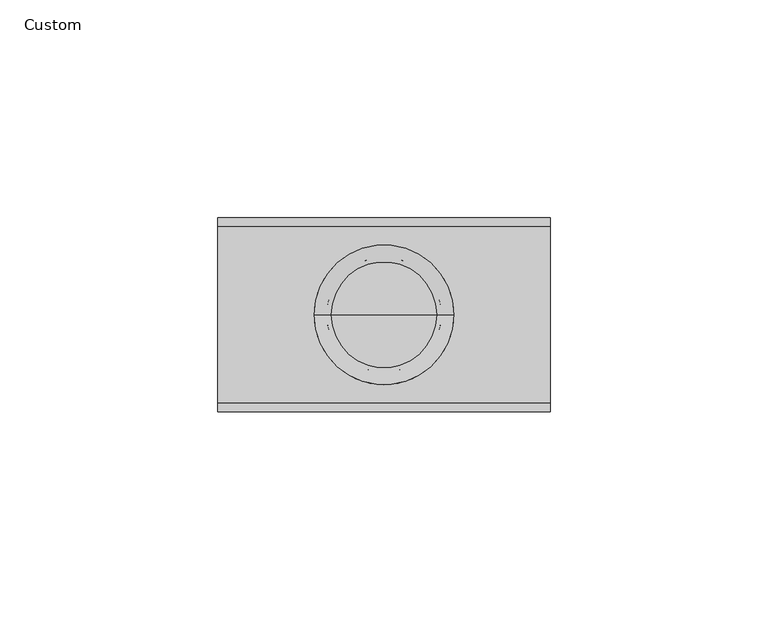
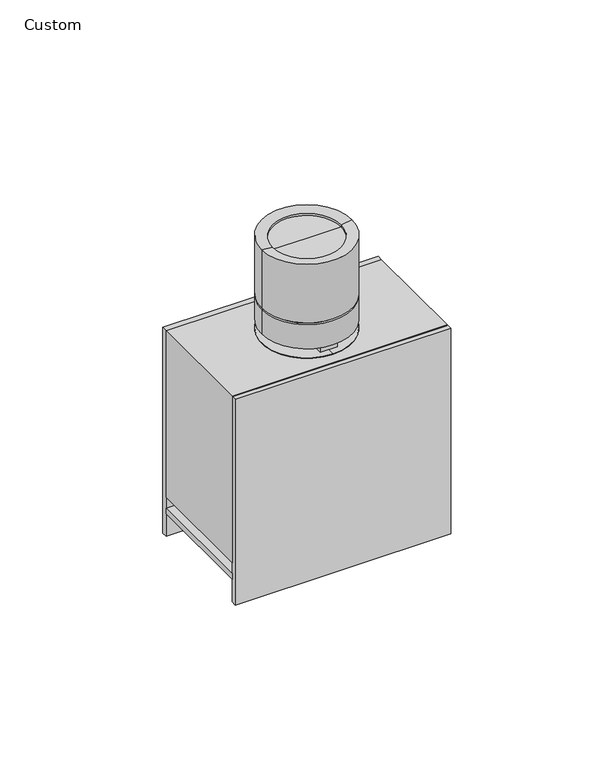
"""IFC4 building model written with IfcOpenShell, lengths in millimetres: light fixture geometry, Lighting-Pendant-Axis-Sculpt-Linear-Accent : Custom."""

from ifc_helpers import new_model, si_unit, point, frame, frame_2d, origin, place, context, project, spatial, polyline, circle_curve, ellipse_curve, trimmed, segment, composite_curve, outline, extrude, source, transform, mapped, element, save
from ifc_brep_helpers import plane_surface, cylinder_surface, revolved_surface, advanced_brep


def custom_6c2c77e1(model_context):
    return source(origin(), model_context, "Body", "SolidModel", [
        advanced_brep(
        [(-12.1749998, 0.0, 720.9971034), (12.1749998, 0.0, 720.9971034), (15.9999994, 0.0, 721.52002), (-15.9999994, 0.0, 721.52002), (-12.1749998, 0.0, 720.2033534), (12.1749998, 0.0, 720.2033534), (-14.0, 0.0, 720.2033534), (14.0, 0.0, 720.2033534), (-14.0, 0.0, 705.9033531), (14.0, 0.0, 705.9033531), (-12.4999997, 0.0, 705.9033531), (12.4999997, 0.0, 705.9033531), (-12.4999997, 0.0, 707.5033531), (12.4999997, 0.0, 707.5033531), (0.0, 0.0, 707.5033531), (-15.9999994, 0.0, 689.9033527), (15.9999994, 0.0, 689.9033527), (0.0, 0.0, 689.9033527), (-15.9999994, 0.0, 698.9033533), (15.9999994, 0.0, 698.9033533), (-15.2062494, 0.0, 698.9033533), (15.2062494, 0.0, 698.9033533), (-15.2062494, 0.0, 699.6971033), (15.2062494, 0.0, 699.6971033), (-15.9999994, 0.0, 699.6971033), (15.9999994, 0.0, 699.6971033)],
        [
            (0, 1, circle_curve(frame((0.0, 0.0, 720.9971034), z_axis=(0.0, 0.0, -1.0), x_axis=(1.0, 0.0, 0.0)), 12.1749998)),
            (1, 2),
            (2, 3, circle_curve(frame((0.0, 0.0, 721.52002), z_axis=(0.0, 0.0, 1.0), x_axis=(1.0, 0.0, 0.0)), 15.9999994)),
            (3, 0),
            (1, 0, circle_curve(frame((0.0, 0.0, 720.9971034), z_axis=(0.0, 0.0, -1.0), x_axis=(1.0, 0.0, 0.0)), 12.1749998)),
            (3, 2, circle_curve(frame((0.0, 0.0, 721.52002), z_axis=(0.0, 0.0, 1.0), x_axis=(1.0, 0.0, 0.0)), 15.9999994)),
            (4, 5, circle_curve(frame((0.0, 0.0, 720.2033534), z_axis=(0.0, 0.0, -1.0), x_axis=(1.0, 0.0, 0.0)), 12.1749998)),
            (5, 1),
            (0, 4),
            (5, 4, circle_curve(frame((0.0, 0.0, 720.2033534), z_axis=(0.0, 0.0, -1.0), x_axis=(1.0, 0.0, 0.0)), 12.1749998)),
            (6, 7, circle_curve(frame((0.0, 0.0, 720.2033534), z_axis=(0.0, 0.0, -1.0), x_axis=(1.0, 0.0, 0.0)), 14.0)),
            (7, 5),
            (4, 6),
            (7, 6, circle_curve(frame((0.0, 0.0, 720.2033534), z_axis=(0.0, 0.0, -1.0), x_axis=(1.0, 0.0, 0.0)), 14.0)),
            (8, 9, circle_curve(frame((0.0, 0.0, 705.9033531), z_axis=(0.0, 0.0, -1.0), x_axis=(1.0, 0.0, 0.0)), 14.0)),
            (9, 7),
            (6, 8),
            (9, 8, circle_curve(frame((0.0, 0.0, 705.9033531), z_axis=(0.0, 0.0, -1.0), x_axis=(1.0, 0.0, 0.0)), 14.0)),
            (10, 11, circle_curve(frame((0.0, 0.0, 705.9033531), z_axis=(0.0, 0.0, -1.0), x_axis=(1.0, 0.0, 0.0)), 12.4999997)),
            (11, 9),
            (8, 10),
            (11, 10, circle_curve(frame((0.0, 0.0, 705.9033531), z_axis=(0.0, 0.0, -1.0), x_axis=(1.0, 0.0, 0.0)), 12.4999997)),
            (12, 13, circle_curve(frame((0.0, 0.0, 707.5033531), z_axis=(0.0, 0.0, -1.0), x_axis=(1.0, 0.0, 0.0)), 12.4999997)),
            (13, 11),
            (10, 12),
            (13, 12, circle_curve(frame((0.0, 0.0, 707.5033531), z_axis=(0.0, 0.0, -1.0), x_axis=(1.0, 0.0, 0.0)), 12.4999997)),
            (14, 13),
            (12, 14),
            (15, 16, circle_curve(frame((0.0, 0.0, 689.9033527), z_axis=(0.0, 0.0, -1.0), x_axis=(1.0, 0.0, 0.0)), 15.9999994)),
            (16, 17),
            (17, 15),
            (16, 15, circle_curve(frame((0.0, 0.0, 689.9033527), z_axis=(0.0, 0.0, -1.0), x_axis=(1.0, 0.0, 0.0)), 15.9999994)),
            (18, 19, circle_curve(frame((0.0, 0.0, 698.9033533), z_axis=(0.0, 0.0, -1.0), x_axis=(1.0, 0.0, 0.0)), 15.9999994)),
            (19, 16),
            (15, 18),
            (19, 18, circle_curve(frame((0.0, 0.0, 698.9033533), z_axis=(0.0, 0.0, -1.0), x_axis=(1.0, 0.0, 0.0)), 15.9999994)),
            (20, 21, circle_curve(frame((0.0, 0.0, 698.9033533), z_axis=(0.0, 0.0, -1.0), x_axis=(1.0, 0.0, 0.0)), 15.2062494)),
            (21, 19),
            (18, 20),
            (21, 20, circle_curve(frame((0.0, 0.0, 698.9033533), z_axis=(0.0, 0.0, -1.0), x_axis=(1.0, 0.0, 0.0)), 15.2062494)),
            (22, 23, circle_curve(frame((0.0, 0.0, 699.6971033), z_axis=(0.0, 0.0, -1.0), x_axis=(1.0, 0.0, 0.0)), 15.2062494)),
            (23, 21),
            (20, 22),
            (23, 22, circle_curve(frame((0.0, 0.0, 699.6971033), z_axis=(0.0, 0.0, -1.0), x_axis=(1.0, 0.0, 0.0)), 15.2062494)),
            (24, 25, circle_curve(frame((0.0, 0.0, 699.6971033), z_axis=(0.0, 0.0, -1.0), x_axis=(1.0, 0.0, 0.0)), 15.9999994)),
            (25, 23),
            (22, 24),
            (25, 24, circle_curve(frame((0.0, 0.0, 699.6971033), z_axis=(0.0, 0.0, -1.0), x_axis=(1.0, 0.0, 0.0)), 15.9999994)),
            (2, 25),
            (24, 3),
        ],
        [
            revolved_surface(polyline([(15.9999994, 0.0, 721.52002), (12.1749998, 0.0, 720.9971034)]), (0.0, 0.0, 2923.1350231), (0.0, 0.0, 1.0)),
            revolved_surface(polyline([(12.1749998, 0.0, 720.9971034), (12.1749998, 0.0, 720.2033533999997)]), (0.0, 0.0, 2923.1350231), (0.0, 0.0, 1.0)),
            plane_surface(frame((0.0, 0.0, 720.2033534), z_axis=(0.0, 0.0, -1.0), x_axis=(1.0, 0.0, 0.0))),
            revolved_surface(polyline([(14.0, 0.0, 720.2033533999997), (14.0, 0.0, 705.9033531)]), (0.0, 0.0, 2923.1350231), (0.0, 0.0, 1.0)),
            plane_surface(frame((0.0, 0.0, 705.9033531), z_axis=(0.0, 0.0, 1.0), x_axis=(1.0, 0.0, 0.0))),
            cylinder_surface(frame((0.0, 0.0, 2923.1350231), z_axis=(0.0, 0.0, 1.0), x_axis=(1.0, 0.0, 0.0)), 12.4999997),
            plane_surface(frame((0.0, 0.0, 707.5033531), z_axis=(0.0, 0.0, 1.0), x_axis=(1.0, 0.0, 0.0))),
            plane_surface(frame((0.0, 0.0, 689.9033527), z_axis=(0.0, 0.0, -1.0), x_axis=(1.0, 0.0, 0.0))),
            cylinder_surface(frame((0.0, 0.0, 2923.1350231), z_axis=(0.0, 0.0, 1.0), x_axis=(1.0, 0.0, 0.0)), 15.9999994),
            plane_surface(frame((0.0, 0.0, 698.9033533), z_axis=(0.0, 0.0, 1.0), x_axis=(1.0, 0.0, 0.0))),
            cylinder_surface(frame((0.0, 0.0, 2923.1350231), z_axis=(0.0, 0.0, 1.0), x_axis=(1.0, 0.0, 0.0)), 15.2062494),
            plane_surface(frame((0.0, 0.0, 699.6971033), z_axis=(0.0, 0.0, -1.0), x_axis=(1.0, 0.0, 0.0))),
        ],
        [
            (0, [[1, 2, 3, 4]]),
            (0, [[5, -4, 6, -2]]),
            (1, [[7, 8, -1, 9]]),
            (1, [[10, -9, -5, -8]]),
            (2, [[11, 12, -7, 13]]),
            (2, [[14, -13, -10, -12]]),
            (3, [[15, 16, -11, 17]]),
            (3, [[18, -17, -14, -16]]),
            (4, [[19, 20, -15, 21]]),
            (4, [[22, -21, -18, -20]]),
            (5, [[23, 24, -19, 25]]),
            (5, [[26, -25, -22, -24]]),
            (6, [[27, -23, 28]]),
            (6, [[-28, -26, -27]]),
            (7, [[29, 30, 31]]),
            (7, [[32, -31, -30]]),
            (8, [[33, 34, -29, 35]]),
            (8, [[36, -35, -32, -34]]),
            (9, [[37, 38, -33, 39]]),
            (9, [[40, -39, -36, -38]]),
            (10, [[41, 42, -37, 43]]),
            (10, [[44, -43, -40, -42]]),
            (11, [[45, 46, -41, 47]]),
            (11, [[48, -47, -44, -46]]),
            (8, [[-3, 49, -45, 50]]),
            (8, [[-6, -50, -48, -49]]),
        ],
    ),
        advanced_brep(
        [(-12.4525096, 0.0, 719.3533539), (12.4525096, 0.0, 719.3533539), (4.8863176, 0.0, 707.5033531), (-4.8863176, 0.0, 707.5033531), (-13.2500003, 0.0, 719.3533539), (13.2500003, 0.0, 719.3533539), (-13.2203172, 0.0, 720.2033534), (13.2203172, 0.0, 720.2033534), (0.0, 0.0, 720.2033534), (-3.7500001, 0.0, 713.5104959), (3.7500001, 0.0, 713.5104959), (0.0, 0.0, 711.9033531), (-3.959774, 0.0, 707.5033531), (3.959774, 0.0, 707.5033531)],
        [
            (0, 1, circle_curve(frame((0.0, 0.0, 719.3533539), z_axis=(0.0, 0.0, -1.0), x_axis=(1.0, 0.0, 0.0)), 12.4525096)),
            (1, 2, circle_curve(frame((-55.2491331, 0.0, 754.2401648), z_axis=(0.0, 1.0, 0.0), x_axis=(0.8889199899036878, 0.0, -0.4580624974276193)), 76.1616833)),
            (2, 3, circle_curve(frame((0.0, 0.0, 707.5033531), z_axis=(0.0, 0.0, 1.0), x_axis=(1.0, 0.0, 0.0)), 4.8863176)),
            (3, 0, circle_curve(frame((55.2491331, 0.0, 754.2401648), z_axis=(0.0, 1.0, 0.0), x_axis=(-0.8889199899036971, 0.0, -0.45806249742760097)), 76.1616833)),
            (1, 0, circle_curve(frame((0.0, 0.0, 719.3533539), z_axis=(0.0, 0.0, -1.0), x_axis=(1.0, 0.0, 0.0)), 12.4525096)),
            (3, 2, circle_curve(frame((0.0, 0.0, 707.5033531), z_axis=(0.0, 0.0, 1.0), x_axis=(1.0, 0.0, 0.0)), 4.8863176)),
            (4, 5, circle_curve(frame((0.0, 0.0, 719.3533539), z_axis=(0.0, 0.0, -1.0), x_axis=(1.0, 0.0, 0.0)), 13.2500003)),
            (5, 1),
            (0, 4),
            (5, 4, circle_curve(frame((0.0, 0.0, 719.3533539), z_axis=(0.0, 0.0, -1.0), x_axis=(1.0, 0.0, 0.0)), 13.2500003)),
            (6, 7, circle_curve(frame((0.0, 0.0, 720.2033534), z_axis=(0.0, 0.0, -1.0), x_axis=(1.0, 0.0, 0.0)), 13.2203172)),
            (7, 5),
            (4, 6),
            (7, 6, circle_curve(frame((0.0, 0.0, 720.2033534), z_axis=(0.0, 0.0, -1.0), x_axis=(1.0, 0.0, 0.0)), 13.2203172)),
            (8, 7),
            (6, 8),
            (9, 10, circle_curve(frame((0.0, 0.0, 713.5104959), z_axis=(0.0, 0.0, -1.0), x_axis=(1.0, 0.0, 0.0)), 3.7500001)),
            (10, 11, circle_curve(frame((0.0626217, 0.0, 716.9358075), z_axis=(0.0, 1.0, 0.0), x_axis=(0.732662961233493, 0.0, -0.6805916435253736)), 5.0328441)),
            (11, 9, circle_curve(frame((-0.0626217, 0.0, 716.9358075), z_axis=(0.0, 1.0, 0.0), x_axis=(-0.7326629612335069, 0.0, -0.6805916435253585)), 5.0328441)),
            (10, 9, circle_curve(frame((0.0, 0.0, 713.5104959), z_axis=(0.0, 0.0, -1.0), x_axis=(1.0, 0.0, 0.0)), 3.7500001)),
            (12, 13, circle_curve(frame((0.0, 0.0, 707.5033531), z_axis=(0.0, 0.0, -1.0), x_axis=(1.0, 0.0, 0.0)), 3.959774)),
            (13, 10),
            (9, 12),
            (13, 12, circle_curve(frame((0.0, 0.0, 707.5033531), z_axis=(0.0, 0.0, -1.0), x_axis=(1.0, 0.0, 0.0)), 3.959774)),
            (2, 13),
            (12, 3),
        ],
        [
            revolved_surface(trimmed(ellipse_curve(frame((-55.2491331, 0.0, 754.2401648), z_axis=(0.0, -1.0, 0.0), x_axis=(0.8889199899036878, 0.0, -0.4580624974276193)), 76.1616833, 76.1616833), [point((4.8863176, 0.0, 707.5033531))], [point((12.4525096, 0.0, 719.3533539))], True, "CARTESIAN"), (0.0, 0.0, 2923.1350231), (0.0, 0.0, 1.0)),
            plane_surface(frame((0.0, 0.0, 719.3533539), z_axis=(0.0, 0.0, -1.0), x_axis=(1.0, 0.0, 0.0))),
            revolved_surface(polyline([(13.2500003, 0.0, 719.3533539), (13.2203172, 0.0, 720.2033534)]), (0.0, 0.0, 2923.1350231), (0.0, 0.0, 1.0)),
            plane_surface(frame((0.0, 0.0, 720.2033534), z_axis=(0.0, 0.0, 1.0), x_axis=(1.0, 0.0, 0.0))),
            revolved_surface(trimmed(ellipse_curve(frame((0.0626217, 0.0, 716.9358075), z_axis=(0.0, -1.0, 0.0), x_axis=(0.732662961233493, 0.0, -0.6805916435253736)), 5.0328441, 5.0328441), [point((0.0, 0.0, 711.9033531))], [point((3.7500001, 0.0, 713.5104959))], True, "CARTESIAN"), (0.0, 0.0, 2923.1350231), (0.0, 0.0, 1.0)),
            revolved_surface(polyline([(3.7500001, 0.0, 713.5104959), (3.959774, 0.0, 707.5033531)]), (0.0, 0.0, 2923.1350231), (0.0, 0.0, 1.0)),
            plane_surface(frame((0.0, 0.0, 707.5033531), z_axis=(0.0, 0.0, -1.0), x_axis=(1.0, 0.0, 0.0))),
        ],
        [
            (0, [[1, 2, 3, 4]]),
            (0, [[5, -4, 6, -2]]),
            (1, [[7, 8, -1, 9]]),
            (1, [[10, -9, -5, -8]]),
            (2, [[11, 12, -7, 13]]),
            (2, [[14, -13, -10, -12]]),
            (3, [[15, -11, 16]]),
            (3, [[-16, -14, -15]]),
            (4, [[17, 18, 19]]),
            (4, [[20, -19, -18]]),
            (5, [[21, 22, -17, 23]]),
            (5, [[24, -23, -20, -22]]),
            (6, [[-3, 25, -21, 26]]),
            (6, [[-6, -26, -24, -25]]),
        ],
    ),
        extrude(outline(composite_curve([segment(trimmed(circle_curve(frame_2d((-9.525, 692.94502)), 3.9750181), [point((-13.5000181, 692.94502))], [point((-5.5499819, 692.94502))], False, "CARTESIAN"), True, "CONTINUOUS"), segment(polyline([(-5.5499819, 692.94502), (-5.5499819, 686.59502), (-13.5000181, 686.59502), (-13.5000181, 692.94502)]), True, "CONTINUOUS")], self_intersect=False)), frame((-2.9999793, 0.0, 0.0), z_axis=(1.0, 0.0, 0.0), x_axis=(0.0, 1.0, 0.0)), (0.0, 0.0, 1.0), 5.9999586),
        advanced_brep(
        [(0.0, 0.0, 648.4400175), (0.0, -10.1695708, 648.4400175), (0.0, 10.1695708, 648.4400175), (0.0, 15.9999994, 686.59502), (0.0, -15.9999994, 686.59502), (0.0, 0.0, 686.59502), (0.0, 15.9999994, 685.0950188), (0.0, -15.9999994, 685.0950188), (0.0, 10.1695708, 685.0950188), (0.0, -10.1695708, 685.0950188)],
        [
            (0, 1),
            (1, 2, circle_curve(frame((0.0, 0.0, 648.4400175), z_axis=(0.0, 0.0, -1.0), x_axis=(0.0, -1.0, 0.0)), 10.1695708)),
            (2, 0),
            (2, 1, circle_curve(frame((0.0, 0.0, 648.4400175), z_axis=(0.0, 0.0, -1.0), x_axis=(0.0, -1.0, 0.0)), 10.1695708)),
            (3, 4, circle_curve(frame((0.0, 0.0, 686.59502), z_axis=(0.0, 0.0, 1.0), x_axis=(0.0, -1.0, 0.0)), 15.9999994)),
            (4, 5),
            (5, 3),
            (4, 3, circle_curve(frame((0.0, 0.0, 686.59502), z_axis=(0.0, 0.0, 1.0), x_axis=(0.0, -1.0, 0.0)), 15.9999994)),
            (6, 7, circle_curve(frame((0.0, 0.0, 685.0950188), z_axis=(0.0, 0.0, 1.0), x_axis=(0.0, -1.0, 0.0)), 15.9999994)),
            (7, 4),
            (3, 6),
            (7, 6, circle_curve(frame((0.0, 0.0, 685.0950188), z_axis=(0.0, 0.0, 1.0), x_axis=(0.0, -1.0, 0.0)), 15.9999994)),
            (8, 9, circle_curve(frame((0.0, 0.0, 685.0950188), z_axis=(0.0, 0.0, 1.0), x_axis=(0.0, -1.0, 0.0)), 10.1695708)),
            (9, 7),
            (6, 8),
            (9, 8, circle_curve(frame((0.0, 0.0, 685.0950188), z_axis=(0.0, 0.0, 1.0), x_axis=(0.0, -1.0, 0.0)), 10.1695708)),
            (1, 9),
            (8, 2),
        ],
        [
            plane_surface(frame((0.0, 0.0, 648.4400175), z_axis=(0.0, 0.0, -1.0), x_axis=(0.0, -1.0, 0.0))),
            plane_surface(frame((0.0, 0.0, 686.59502), z_axis=(0.0, 0.0, 1.0), x_axis=(0.0, -1.0, 0.0))),
            cylinder_surface(frame((0.0, 0.0, 3036.7518143), z_axis=(0.0, 0.0, -1.0), x_axis=(0.0, -1.0, 0.0)), 15.9999994),
            plane_surface(frame((0.0, 0.0, 685.0950188), z_axis=(0.0, 0.0, -1.0), x_axis=(0.0, -1.0, 0.0))),
            cylinder_surface(frame((0.0, 0.0, 3036.7518143), z_axis=(0.0, 0.0, -1.0), x_axis=(0.0, -1.0, 0.0)), 10.1695708),
        ],
        [
            (0, [[1, 2, 3]]),
            (0, [[-3, 4, -1]]),
            (1, [[5, 6, 7]]),
            (1, [[8, -7, -6]]),
            (2, [[9, 10, -5, 11]]),
            (2, [[12, -11, -8, -10]]),
            (3, [[13, 14, -9, 15]]),
            (3, [[16, -15, -12, -14]]),
            (4, [[-2, 17, -13, 18]]),
            (4, [[-4, -18, -16, -17]]),
        ],
    ),
        advanced_brep(
        [(38.1, -20.1929994, 686.59502), (38.1, -20.1929994, 624.1683301), (38.1, 20.1929368, 624.1683301), (38.1, 20.1929368, 686.59502), (-38.1, -20.1929994, 624.1683301), (-38.1, -20.1929994, 686.59502), (-38.1, 20.1929368, 686.59502), (-38.1, 20.1929368, 624.1683301), (15.99946, 0.0, 686.59502), (-15.99946, 0.0, 686.59502), (-15.99946, 0.0, 626.21414), (15.99946, 0.0, 626.21414)],
        [
            (0, 1),
            (1, 2),
            (2, 3),
            (3, 0),
            (4, 5),
            (5, 6),
            (6, 7),
            (7, 4),
            (0, 5),
            (4, 1),
            (7, 2),
            (6, 3),
            (8, 9, circle_curve(frame((0.0, 0.0, 686.59502), z_axis=(0.0, 0.0, -1.0), x_axis=(1.0, 0.0, 0.0)), 15.99946)),
            (9, 8, circle_curve(frame((0.0, 0.0, 686.59502), z_axis=(0.0, 0.0, -1.0), x_axis=(1.0, 0.0, 0.0)), 15.99946)),
            (10, 11, circle_curve(frame((0.0, 0.0, 626.21414), z_axis=(0.0, 0.0, 1.0), x_axis=(1.0, 0.0, 0.0)), 15.99946)),
            (11, 10, circle_curve(frame((0.0, 0.0, 626.21414), z_axis=(0.0, 0.0, 1.0), x_axis=(1.0, 0.0, 0.0)), 15.99946)),
            (10, 9),
            (8, 11),
        ],
        [
            plane_surface(frame((38.1, -20.1929994, 686.59502), z_axis=(1.0, 0.0, 0.0), x_axis=(0.0, 0.0, -1.0))),
            plane_surface(frame((-38.1, -20.1929994, 686.59502), z_axis=(-1.0, 0.0, 0.0), x_axis=(0.0, 0.0, 1.0))),
            plane_surface(frame((38.1, -20.1929994, 686.59502), z_axis=(0.0, -1.0, 0.0), x_axis=(-1.0, 0.0, 0.0))),
            plane_surface(frame((38.1, -20.1929994, 624.1683301), z_axis=(0.0, 0.0, -1.0), x_axis=(-1.0, 0.0, 0.0))),
            plane_surface(frame((38.1, 20.1929368, 624.1683301), z_axis=(0.0, 1.0, 0.0), x_axis=(-1.0, 0.0, 0.0))),
            plane_surface(frame((38.1, 20.1929368, 686.59502), z_axis=(0.0, 0.0, 1.0), x_axis=(-1.0, 0.0, 0.0))),
            plane_surface(frame((15.99946, 0.0, 626.21414), z_axis=(0.0, 0.0, 1.0), x_axis=(0.0, -1.0, 0.0))),
            revolved_surface(polyline([(15.99946, 0.0, 686.59502), (15.99946, 0.0, 626.21414)]), (0.0, 0.0, 626.21414), (0.0, 0.0, 1.0)),
        ],
        [
            (0, [[1, 2, 3, 4]]),
            (1, [[5, 6, 7, 8]]),
            (2, [[-1, 9, -5, 10]]),
            (3, [[-2, -10, -8, 11]]),
            (4, [[-3, -11, -7, 12]]),
            (5, [[-4, -12, -6, -9], [13, 14]]),
            (6, [[15, 16]]),
            (7, [[-15, 17, -13, 18]]),
            (7, [[-16, -18, -14, -17]]),
        ],
    ),
        extrude(outline(polyline([(38.1, 20.1929994), (38.1, -20.1929994), (-38.1, -20.1929994), (-38.1, 20.1929994), (38.1, 20.1929994)])), frame((0.0, 0.0, 618.0455013), z_axis=(0.0, 0.0, 1.0), x_axis=(1.0, 0.0, 0.0)), (0.0, 0.0, 1.0), 2.0319968),
        extrude(outline(polyline([(38.1, -20.1929994), (38.1, -22.225), (-38.1, -22.225), (-38.1, -20.1929994), (38.1, -20.1929994)])), frame((0.0, 0.0, 609.6), z_axis=(0.0, 0.0, 1.0), x_axis=(1.0, 0.0, 0.0)), (0.0, 0.0, 1.0), 76.99502),
        extrude(outline(polyline([(38.1, 22.225), (38.1, 20.1929994), (-38.1, 20.1929994), (-38.1, 22.225), (38.1, 22.225)])), frame((0.0, 0.0, 609.6), z_axis=(0.0, 0.0, 1.0), x_axis=(1.0, 0.0, 0.0)), (0.0, 0.0, 1.0), 76.99502),
    ])


if __name__ == "__main__":
    model = new_model("IFC4")
    model_context = context("Model", 3, world=origin())
    ifc_project = project(units=[si_unit("LENGTHUNIT", "METRE", prefix="MILLI")], contexts=[model_context])
    site = spatial("IfcSite", under=ifc_project)
    building = spatial("IfcBuilding", under=site)
    placement = place(None, origin())
    custom_shape = custom_6c2c77e1(model_context)
    element("IfcLightFixture", 1, ObjectType="Lighting-Pendant-Axis-Sculpt-Linear-Accent : Custom", at=placement, inside=building, context=model_context, shape_type="MappedRepresentation", body=[
        mapped(custom_shape, transform((0.0, 0.0, 0.0), x_axis=(1.0, 0.0, 0.0), y_axis=(0.0, 1.0, 0.0), z_axis=(0.0, 0.0, 1.0))),
    ])
    save(model, "model.ifc")
